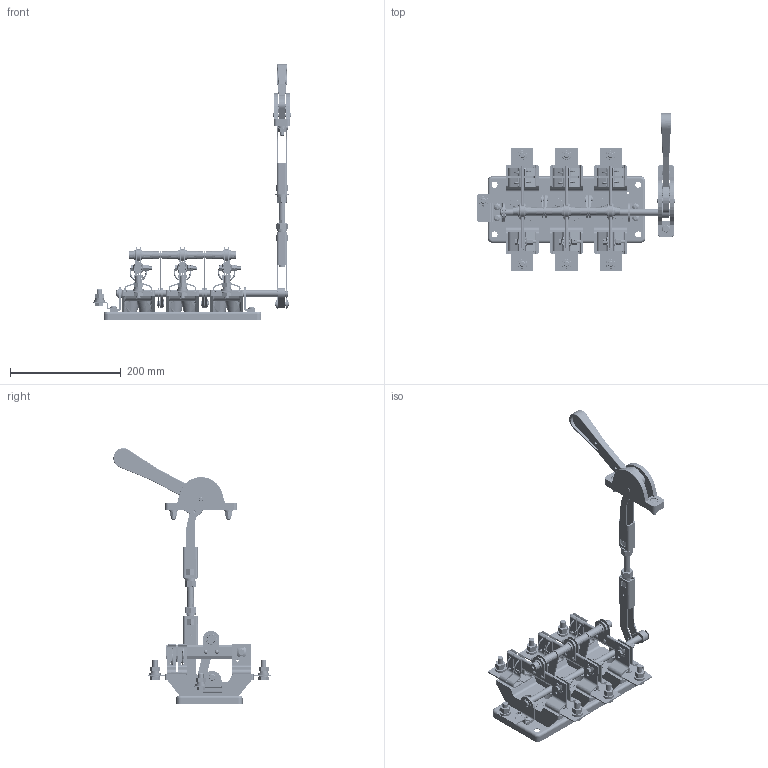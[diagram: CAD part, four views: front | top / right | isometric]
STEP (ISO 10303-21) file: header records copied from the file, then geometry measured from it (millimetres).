
FILE_DESCRIPTION (( 'STEP AP203' ), '1' );
FILE_NAME ('ﾐﾅ19-37-31140-400ﾀ-ﾓﾕﾋ3.STEP', '2025-12-24T13:29:49', ( '' ), ( '' ), 'SwSTEP 2.0', 'SolidWorks 2018', '' );
FILE_SCHEMA (( 'CONFIG_CONTROL_DESIGN' ));
Products named in the file (2): ﾐﾅ19-37-31140-400ﾀ-ﾓﾕﾋ3
Bounding box: 357.5 x 284.34 x 462.36 mm (x, y, z)
Volume: 978437.9 mm3; surface area: 621619.1 mm2
Topology: 218 solids, 218 shells, 5463 faces, 13050 edges, 8242 vertices
Faces by surface type: plane 2662, cylinder 1681, cone 529, bspline 294, torus 237, sphere 60
Entity records: 179848 total; most frequent: CARTESIAN_POINT 53456, ORIENTED_EDGE 26070, DIRECTION 26037, EDGE_CURVE 13035, AXIS2_PLACEMENT_3D 9708, VERTEX_POINT 8242, LINE 6621, VECTOR 6621
